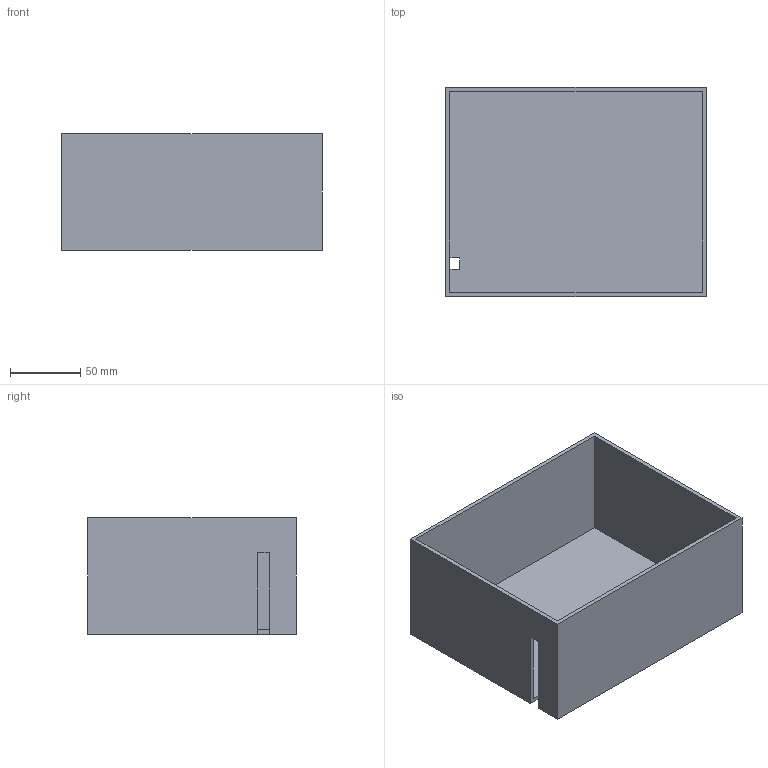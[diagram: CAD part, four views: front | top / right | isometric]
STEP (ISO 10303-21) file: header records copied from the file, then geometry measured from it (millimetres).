
FILE_DESCRIPTION (( 'STEP AP203' ), '1' );
FILE_NAME ('V2_bin_180x143x80.STEP', '2026-09-18T10:20:12', ( '15300530775@163.com' ), ( '' ), 'SwSTEP 2.0', 'SolidWorks 2026', '' );
FILE_SCHEMA (( 'CONFIG_CONTROL_DESIGN' ));
Length unit declared in the file: millimetre
Products named in the file (1): V2_bin_180x143x80
Bounding box: 186 x 149 x 83 mm (x, y, z)
Volume: 239502 mm3; surface area: 162116 mm2
Topology: 1 solids, 1 shells, 15 faces, 42 edges, 28 vertices
Faces by surface type: plane 15
Entity records: 557 total; most frequent: CARTESIAN_POINT 86, ORIENTED_EDGE 84, DIRECTION 74, EDGE_CURVE 42, LINE 42, VECTOR 42, VERTEX_POINT 28, AXIS2_PLACEMENT_3D 16
